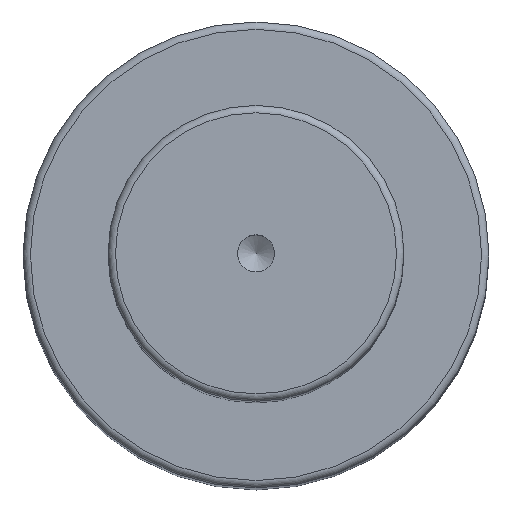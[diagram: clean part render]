
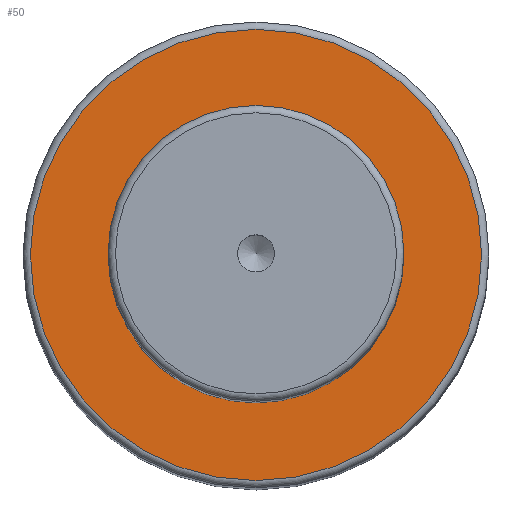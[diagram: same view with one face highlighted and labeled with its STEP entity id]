
A CAD part, top view. The second image highlights one B-rep face of the part: STEP entity #50.
In plain terms, the highlighted planar face has unit normal (0, 0, 1).
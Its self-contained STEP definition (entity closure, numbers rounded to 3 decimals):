
#40=PLANE('',#179);
#50=ADVANCED_FACE('',(#72,#73),#40,.F.);
#72=FACE_BOUND('',#96,.T.);
#73=FACE_BOUND('',#97,.T.);
#96=EDGE_LOOP('',(#118));
#97=EDGE_LOOP('',(#119));
#118=ORIENTED_EDGE('',*,*,#149,.F.);
#119=ORIENTED_EDGE('',*,*,#148,.T.);
#135=VERTEX_POINT('',#256);
#136=VERTEX_POINT('',#259);
#148=EDGE_CURVE('',#135,#135,#159,.T.);
#149=EDGE_CURVE('',#136,#136,#160,.T.);
#159=CIRCLE('',#176,20.);
#160=CIRCLE('',#178,30.5);
#176=AXIS2_PLACEMENT_3D('',#255,#213,#214);
#178=AXIS2_PLACEMENT_3D('',#258,#217,#218);
#179=AXIS2_PLACEMENT_3D('',#260,#219,#220);
#213=DIRECTION('',(0.,0.,-1.));
#214=DIRECTION('',(-1.,0.,0.));
#217=DIRECTION('',(0.,0.,-1.));
#218=DIRECTION('',(-1.,0.,0.));
#219=DIRECTION('',(0.,0.,-1.));
#220=DIRECTION('',(-1.,0.,0.));
#255=CARTESIAN_POINT('',(0.,0.,159.));
#256=CARTESIAN_POINT('',(-20.,0.,159.));
#258=CARTESIAN_POINT('',(0.,0.,159.));
#259=CARTESIAN_POINT('',(-30.5,0.,159.));
#260=CARTESIAN_POINT('',(20.,0.,159.));
